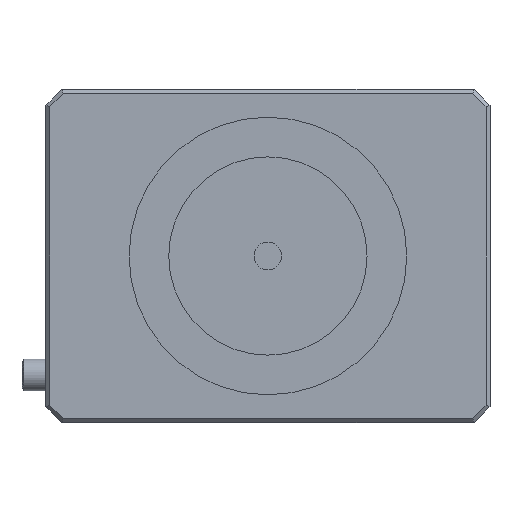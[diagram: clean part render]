
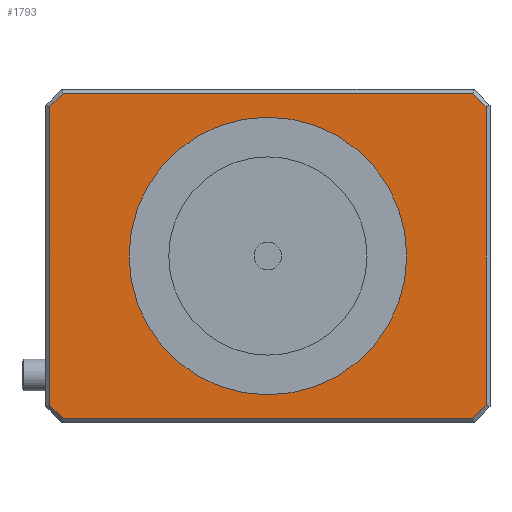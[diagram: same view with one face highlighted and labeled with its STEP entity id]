
A CAD part, front view. The second image highlights one B-rep face of the part: STEP entity #1793.
In plain terms, the highlighted planar face has unit normal (0, -1, 0).
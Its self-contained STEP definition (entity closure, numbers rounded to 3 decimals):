
#16 = DIRECTION ( 'NONE',  ( -0.707, 0., -0.707 ) ) ;
#134 = CARTESIAN_POINT ( 'NONE',  ( -27.5, -38., 21. ) ) ;
#156 = EDGE_CURVE ( 'NONE', #3546, #8456, #4328, .T. ) ;
#239 = ORIENTED_EDGE ( 'NONE', *, *, #7083, .T. ) ;
#316 = DIRECTION ( 'NONE',  ( 0.707, 0., 0.707 ) ) ;
#331 = VERTEX_POINT ( 'NONE', #1054 ) ;
#671 = DIRECTION ( 'NONE',  ( 0., -1., 0. ) ) ;
#771 = LINE ( 'NONE', #6545, #8996 ) ;
#819 = LINE ( 'NONE', #134, #6292 ) ;
#1050 = DIRECTION ( 'NONE',  ( 0., 1., 0. ) ) ;
#1054 = CARTESIAN_POINT ( 'NONE',  ( 27.5, -38., -18.793 ) ) ;
#1093 = CARTESIAN_POINT ( 'NONE',  ( -28., -38., 20.5 ) ) ;
#1107 = CARTESIAN_POINT ( 'NONE',  ( -28., -38., 21. ) ) ;
#1123 = EDGE_LOOP ( 'NONE', ( #7672, #2354 ) ) ;
#1127 = ORIENTED_EDGE ( 'NONE', *, *, #6343, .T. ) ;
#1197 = CARTESIAN_POINT ( 'NONE',  ( 27.5, -38., 18.793 ) ) ;
#1380 = AXIS2_PLACEMENT_3D ( 'NONE', #4229, #671, #1403 ) ;
#1403 = DIRECTION ( 'NONE',  ( 0., 0., -1. ) ) ;
#1466 = DIRECTION ( 'NONE',  ( 0., -1., 0. ) ) ;
#1508 = VECTOR ( 'NONE', #3535, 1000. ) ;
#1793 = ADVANCED_FACE ( 'NONE', ( #7833, #2942 ), #2527, .F. ) ;
#1959 = EDGE_CURVE ( 'NONE', #8369, #6995, #7612, .T. ) ;
#2009 = VERTEX_POINT ( 'NONE', #3682 ) ;
#2151 = VECTOR ( 'NONE', #16, 1000. ) ;
#2354 = ORIENTED_EDGE ( 'NONE', *, *, #8349, .F. ) ;
#2527 = PLANE ( 'NONE',  #3510 ) ;
#2601 = CIRCLE ( 'NONE', #6848, 17.5 ) ;
#2893 = ORIENTED_EDGE ( 'NONE', *, *, #4530, .T. ) ;
#2942 = FACE_BOUND ( 'NONE', #1123, .T. ) ;
#3023 = VECTOR ( 'NONE', #316, 1000. ) ;
#3050 = CARTESIAN_POINT ( 'NONE',  ( 0., -38., -17.5 ) ) ;
#3421 = EDGE_CURVE ( 'NONE', #331, #4444, #7364, .T. ) ;
#3510 = AXIS2_PLACEMENT_3D ( 'NONE', #1107, #1050, #6795 ) ;
#3535 = DIRECTION ( 'NONE',  ( 1., 0., 0. ) ) ;
#3546 = VERTEX_POINT ( 'NONE', #8864 ) ;
#3617 = CARTESIAN_POINT ( 'NONE',  ( 0., -38., 0. ) ) ;
#3682 = CARTESIAN_POINT ( 'NONE',  ( -27.5, -38., -18.793 ) ) ;
#3933 = DIRECTION ( 'NONE',  ( -1., 0., 0. ) ) ;
#3934 = DIRECTION ( 'NONE',  ( -0.707, 0., 0.707 ) ) ;
#4229 = CARTESIAN_POINT ( 'NONE',  ( 0., -38., 0. ) ) ;
#4282 = ORIENTED_EDGE ( 'NONE', *, *, #1959, .T. ) ;
#4328 = LINE ( 'NONE', #1093, #5780 ) ;
#4368 = LINE ( 'NONE', #5104, #2151 ) ;
#4444 = VERTEX_POINT ( 'NONE', #1197 ) ;
#4530 = EDGE_CURVE ( 'NONE', #8456, #4558, #4368, .T. ) ;
#4558 = VERTEX_POINT ( 'NONE', #7199 ) ;
#4708 = CIRCLE ( 'NONE', #1380, 17.5 ) ;
#4832 = EDGE_CURVE ( 'NONE', #6995, #331, #7790, .T. ) ;
#5081 = CARTESIAN_POINT ( 'NONE',  ( -25.646, -38., -20.646 ) ) ;
#5094 = DIRECTION ( 'NONE',  ( 0., 0., -1. ) ) ;
#5104 = CARTESIAN_POINT ( 'NONE',  ( -27.646, -38., 18.646 ) ) ;
#5608 = ORIENTED_EDGE ( 'NONE', *, *, #156, .T. ) ;
#5780 = VECTOR ( 'NONE', #3933, 1000. ) ;
#5785 = CARTESIAN_POINT ( 'NONE',  ( 26., -38., -20.5 ) ) ;
#6292 = VECTOR ( 'NONE', #8708, 1000. ) ;
#6343 = EDGE_CURVE ( 'NONE', #4558, #2009, #819, .T. ) ;
#6509 = VERTEX_POINT ( 'NONE', #6784 ) ;
#6545 = CARTESIAN_POINT ( 'NONE',  ( 25.646, -38., 20.646 ) ) ;
#6784 = CARTESIAN_POINT ( 'NONE',  ( 0., -38., 17.5 ) ) ;
#6795 = DIRECTION ( 'NONE',  ( 0., 0., 1. ) ) ;
#6848 = AXIS2_PLACEMENT_3D ( 'NONE', #3617, #1466, #5094 ) ;
#6995 = VERTEX_POINT ( 'NONE', #9101 ) ;
#7083 = EDGE_CURVE ( 'NONE', #2009, #8369, #8915, .T. ) ;
#7133 = EDGE_LOOP ( 'NONE', ( #5608, #2893, #1127, #239, #4282, #9015, #7906, #8619 ) ) ;
#7199 = CARTESIAN_POINT ( 'NONE',  ( -27.5, -38., 18.793 ) ) ;
#7207 = VERTEX_POINT ( 'NONE', #3050 ) ;
#7253 = CARTESIAN_POINT ( 'NONE',  ( 27.5, -38., 21. ) ) ;
#7364 = LINE ( 'NONE', #7253, #8798 ) ;
#7612 = LINE ( 'NONE', #5785, #1508 ) ;
#7672 = ORIENTED_EDGE ( 'NONE', *, *, #7746, .F. ) ;
#7746 = EDGE_CURVE ( 'NONE', #7207, #6509, #2601, .T. ) ;
#7790 = LINE ( 'NONE', #8205, #3023 ) ;
#7833 = FACE_OUTER_BOUND ( 'NONE', #7133, .T. ) ;
#7869 = CARTESIAN_POINT ( 'NONE',  ( -25.793, -38., 20.5 ) ) ;
#7906 = ORIENTED_EDGE ( 'NONE', *, *, #3421, .T. ) ;
#7971 = DIRECTION ( 'NONE',  ( 0.707, 0., -0.707 ) ) ;
#8041 = VECTOR ( 'NONE', #7971, 1000. ) ;
#8205 = CARTESIAN_POINT ( 'NONE',  ( 27.646, -38., -18.646 ) ) ;
#8349 = EDGE_CURVE ( 'NONE', #6509, #7207, #4708, .T. ) ;
#8369 = VERTEX_POINT ( 'NONE', #9100 ) ;
#8456 = VERTEX_POINT ( 'NONE', #7869 ) ;
#8619 = ORIENTED_EDGE ( 'NONE', *, *, #9057, .T. ) ;
#8708 = DIRECTION ( 'NONE',  ( 0., 0., -1. ) ) ;
#8716 = DIRECTION ( 'NONE',  ( 0., 0., 1. ) ) ;
#8798 = VECTOR ( 'NONE', #8716, 1000. ) ;
#8864 = CARTESIAN_POINT ( 'NONE',  ( 25.793, -38., 20.5 ) ) ;
#8915 = LINE ( 'NONE', #5081, #8041 ) ;
#8996 = VECTOR ( 'NONE', #3934, 1000. ) ;
#9015 = ORIENTED_EDGE ( 'NONE', *, *, #4832, .T. ) ;
#9057 = EDGE_CURVE ( 'NONE', #4444, #3546, #771, .T. ) ;
#9100 = CARTESIAN_POINT ( 'NONE',  ( -25.793, -38., -20.5 ) ) ;
#9101 = CARTESIAN_POINT ( 'NONE',  ( 25.793, -38., -20.5 ) ) ;
